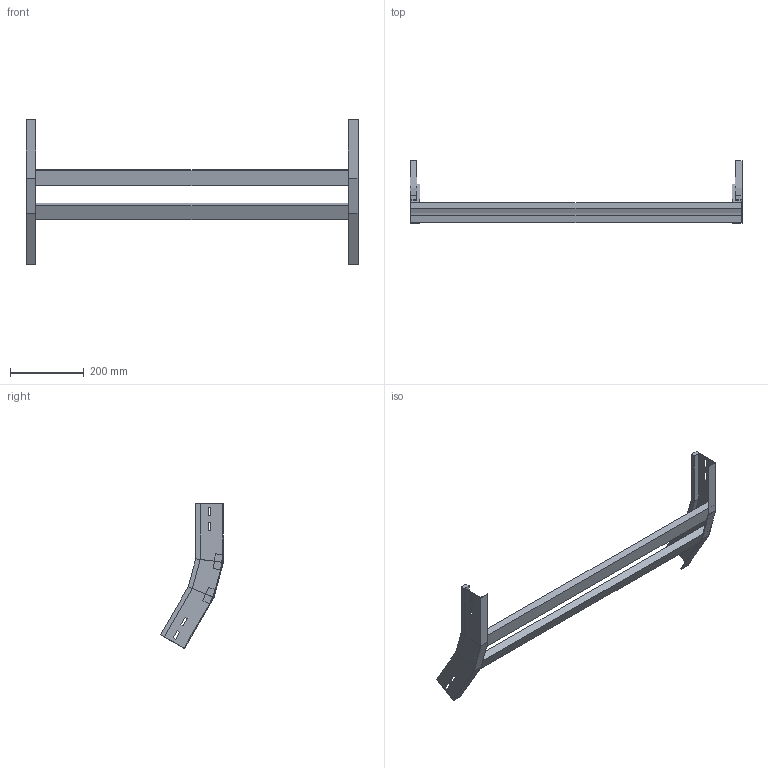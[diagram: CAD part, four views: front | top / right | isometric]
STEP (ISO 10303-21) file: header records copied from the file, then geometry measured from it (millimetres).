
FILE_DESCRIPTION (( 'STEP AP214' ), '1' );
FILE_NAME ('A2X32B3C900XX.step', '2025-03-20T10:01:50', ( '' ), ( '' ), 'SwSTEP 2.0', 'SolidWorks 2023', '' );
FILE_SCHEMA (( 'AUTOMOTIVE_DESIGN' ));
Length unit declared in the file: millimetre
Products named in the file (3): A2X32B3C900XX; LONGH.SALITA_30°_H75_R300; TRAVERSINO_900
Assembly tree (4 placements, depth 2):
  A2X32B3C900XX
    LONGH.SALITA_30°_H75_R300  x2
    TRAVERSINO_900  x2
Bounding box: 900 x 170.24 x 392.95 mm (x, y, z)
Volume: 1756602.7 mm3; surface area: 408797.9 mm2
Topology: 4 solids, 4 shells, 96 faces, 232 edges, 144 vertices
Faces by surface type: plane 96
Entity records: 1472 total; most frequent: CARTESIAN_POINT 243, ORIENTED_EDGE 232, DIRECTION 226, EDGE_CURVE 116, LINE 116, VECTOR 116, VERTEX_POINT 72, EDGE_LOOP 56
